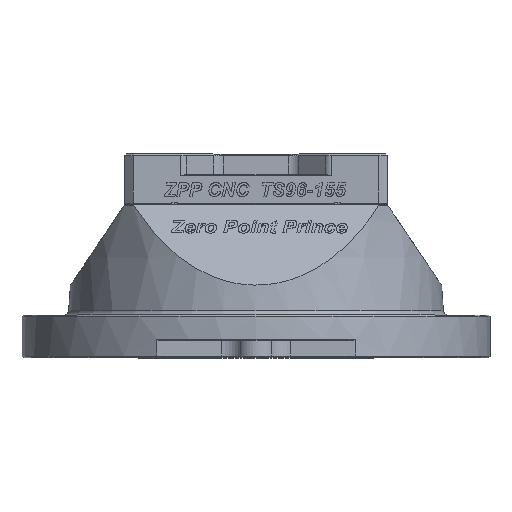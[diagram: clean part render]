
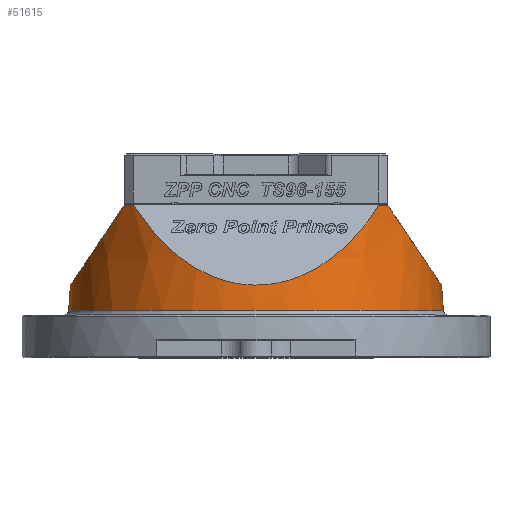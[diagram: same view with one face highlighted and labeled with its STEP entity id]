
A CAD part, top view. The second image highlights one B-rep face of the part: STEP entity #51615.
In plain terms, the highlighted conical face has half-angle 4 degrees and reference radius 108.343 mm.
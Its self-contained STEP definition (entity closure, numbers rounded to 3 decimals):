
#31074=DIRECTION('',(-0.07,0.998,0.));
#31075=VECTOR('',#31074,14.857);
#31076=CARTESIAN_POINT('',(110.5,27.791,
0.));
#31077=LINE('',#31076,#31075);
#31124=DIRECTION('',(0.07,0.998,0.));
#31125=VECTOR('',#31124,14.857);
#31126=CARTESIAN_POINT('',(-110.5,27.791,0.));
#31127=LINE('',#31126,#31125);
#31128=CARTESIAN_POINT('',(0.,27.791,0.));
#31129=DIRECTION('',(0.,-1.,0.));
#31130=DIRECTION('',(1.,0.,0.));
#31131=AXIS2_PLACEMENT_3D('',#31128,#31129,#31130);
#31133=CARTESIAN_POINT('',(-77.836,89.501,
72.227));
#31134=CARTESIAN_POINT('',(-82.25,82.958,
68.143));
#31135=CARTESIAN_POINT('',(-90.341,70.962,
59.174));
#31136=CARTESIAN_POINT('',(-98.519,58.838,
45.855));
#31137=CARTESIAN_POINT('',(-103.682,51.183,
33.7));
#31138=CARTESIAN_POINT('',(-106.758,46.624,
23.716));
#31139=CARTESIAN_POINT('',(-108.874,43.486,
12.689));
#31140=CARTESIAN_POINT('',(-109.464,42.612,
4.444));
#31141=CARTESIAN_POINT('',(-109.464,42.612,
0.));
#31143=CARTESIAN_POINT('',(0.,89.501,0.));
#31144=DIRECTION('',(0.,1.,0.));
#31145=DIRECTION('',(-0.733,0.,0.68));
#31146=AXIS2_PLACEMENT_3D('',#31143,#31144,#31145);
#31148=CARTESIAN_POINT('',(-72.227,89.501,
77.836));
#31149=CARTESIAN_POINT('',(-69.217,84.679,
81.089));
#31150=CARTESIAN_POINT('',(-63.198,76.305,
86.737));
#31151=CARTESIAN_POINT('',(-54.17,66.417,
93.407));
#31152=CARTESIAN_POINT('',(-45.142,58.62,
98.666));
#31153=CARTESIAN_POINT('',(-33.104,50.55,
104.11));
#31154=CARTESIAN_POINT('',(-18.057,44.242,
108.364));
#31155=CARTESIAN_POINT('',(0.,41.797,
110.014));
#31156=CARTESIAN_POINT('',(18.057,44.242,108.364));
#31157=CARTESIAN_POINT('',(33.104,50.55,104.11));
#31158=CARTESIAN_POINT('',(45.142,58.62,98.666));
#31159=CARTESIAN_POINT('',(54.17,66.417,93.407));
#31160=CARTESIAN_POINT('',(63.198,76.305,86.737));
#31161=CARTESIAN_POINT('',(69.217,84.679,81.089));
#31162=CARTESIAN_POINT('',(72.227,89.501,77.836));
#31164=CARTESIAN_POINT('',(0.,89.501,0.));
#31165=DIRECTION('',(0.,1.,0.));
#31166=DIRECTION('',(0.68,0.,0.733));
#31167=AXIS2_PLACEMENT_3D('',#31164,#31165,#31166);
#31169=CARTESIAN_POINT('',(109.464,42.612,0.));
#31170=CARTESIAN_POINT('',(109.464,42.612,4.444));
#31171=CARTESIAN_POINT('',(108.874,43.486,12.689));
#31172=CARTESIAN_POINT('',(106.758,46.624,23.716));
#31173=CARTESIAN_POINT('',(103.682,51.183,33.7));
#31174=CARTESIAN_POINT('',(98.519,58.838,45.855));
#31175=CARTESIAN_POINT('',(90.341,70.962,59.174));
#31176=CARTESIAN_POINT('',(82.25,82.958,68.143));
#31177=CARTESIAN_POINT('',(77.836,89.501,72.227));
#32440=CARTESIAN_POINT('',(-72.227,89.501,
77.836));
#33616=CARTESIAN_POINT('',(77.836,89.501,72.227));
#46799=VERTEX_POINT('',#33616);
#46800=CARTESIAN_POINT('',(72.227,89.501,77.836));
#46801=VERTEX_POINT('',#46800);
#46804=VERTEX_POINT('',#32440);
#46805=CARTESIAN_POINT('',(-77.836,89.501,
72.227));
#46806=VERTEX_POINT('',#46805);
#46826=VERTEX_POINT('',#31169);
#46827=VERTEX_POINT('',#31141);
#47012=CARTESIAN_POINT('',(-110.5,27.791,
0.));
#47013=CARTESIAN_POINT('',(110.5,27.791,
0.));
#47014=VERTEX_POINT('',#47012);
#47015=VERTEX_POINT('',#47013);
#51594=CARTESIAN_POINT('',(0.,58.646,0.));
#51595=DIRECTION('',(0.,-1.,0.));
#51596=DIRECTION('',(-1.,0.,0.));
#51597=AXIS2_PLACEMENT_3D('',#51594,#51595,#51596);
#51598=CONICAL_SURFACE('',#51597,108.342,4.);
#51600=ORIENTED_EDGE('',*,*,#51599,.T.);
#51601=ORIENTED_EDGE('',*,*,#51589,.T.);
#51603=ORIENTED_EDGE('',*,*,#51602,.F.);
#51605=ORIENTED_EDGE('',*,*,#51604,.T.);
#51607=ORIENTED_EDGE('',*,*,#51606,.T.);
#51609=ORIENTED_EDGE('',*,*,#51608,.T.);
#51611=ORIENTED_EDGE('',*,*,#51610,.F.);
#51612=ORIENTED_EDGE('',*,*,#51577,.F.);
#51613=EDGE_LOOP('',(#51600,#51601,#51603,#51605,#51607,#51609,#51611,#51612));
#51614=FACE_OUTER_BOUND('',#51613,.F.);
#51615=ADVANCED_FACE('',(#51614),#51598,.T.);
#31132=CIRCLE('',#31131,110.5);
#31142=B_SPLINE_CURVE_WITH_KNOTS('',3,(#31133,#31134,#31135,#31136,#31137,
#31138,#31139,#31140,#31141),.UNSPECIFIED.,.F.,.F.,(4,1,1,1,1,1,4),(0.,0.25,
0.5,0.625,0.75,0.875,1.),.UNSPECIFIED.);
#31147=CIRCLE('',#31146,106.185);
#31163=B_SPLINE_CURVE_WITH_KNOTS('',3,(#31148,#31149,#31150,#31151,#31152,
#31153,#31154,#31155,#31156,#31157,#31158,#31159,#31160,#31161,#31162),
.UNSPECIFIED.,.F.,.F.,(4,1,1,1,1,1,1,1,1,1,1,1,4),(0.,0.063,0.125,
0.188,0.25,0.375,0.5,0.625,0.75,0.813,0.875,0.938,1.),
.UNSPECIFIED.);
#31168=CIRCLE('',#31167,106.185);
#31178=B_SPLINE_CURVE_WITH_KNOTS('',3,(#31169,#31170,#31171,#31172,#31173,
#31174,#31175,#31176,#31177),.UNSPECIFIED.,.F.,.F.,(4,1,1,1,1,1,4),(0.,
0.125,0.25,0.375,0.5,0.75,1.),.UNSPECIFIED.);
#51577=EDGE_CURVE('',#47015,#46826,#31077,.T.);
#51589=EDGE_CURVE('',#47014,#46827,#31127,.T.);
#51599=EDGE_CURVE('',#47015,#47014,#31132,.T.);
#51602=EDGE_CURVE('',#46806,#46827,#31142,.T.);
#51604=EDGE_CURVE('',#46806,#46804,#31147,.T.);
#51606=EDGE_CURVE('',#46804,#46801,#31163,.T.);
#51608=EDGE_CURVE('',#46801,#46799,#31168,.T.);
#51610=EDGE_CURVE('',#46826,#46799,#31178,.T.);
